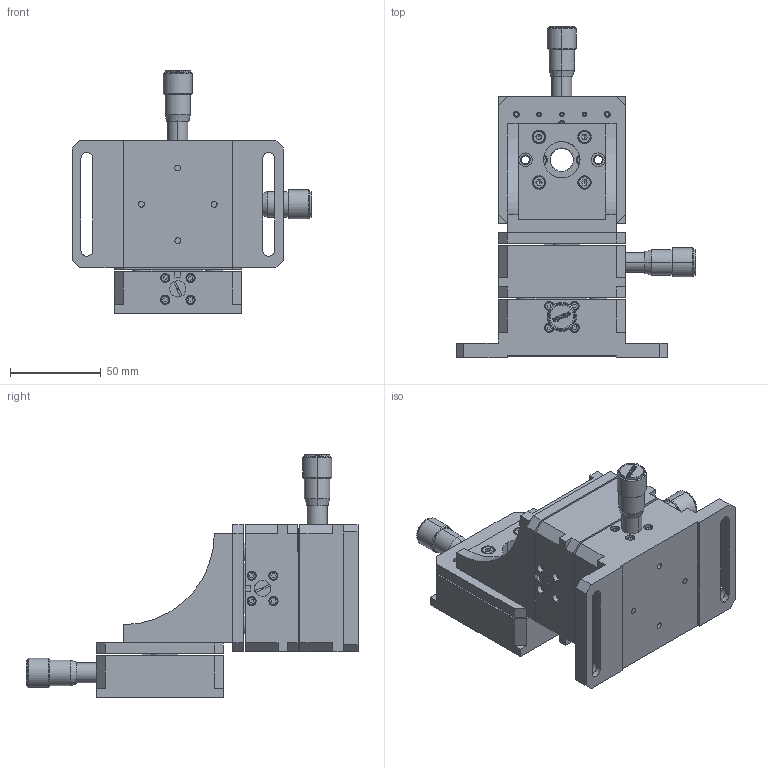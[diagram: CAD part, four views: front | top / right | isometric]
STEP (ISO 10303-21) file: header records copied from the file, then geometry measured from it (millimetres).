
FILE_DESCRIPTION (( 'STEP AP203' ), '1' );
FILE_NAME ('7TLF1-XYZ.STEP', '2008-09-25T06:30:32', ( 'Darius' ), ( '' ), 'SwSTEP 2.0', 'SolidWorks 2003240', '' );
FILE_SCHEMA (( 'CONFIG_CONTROL_DESIGN' ));
Products named in the file (1): 7TLF1-XYZ
Bounding box: 131.6 x 182.6 x 133.6 mm (x, y, z)
Volume: 522715.4 mm3; surface area: 120145.2 mm2
Topology: 1 solids, 94 shells, 2501 faces, 5906 edges, 3781 vertices
Faces by surface type: cylinder 922, plane 897, bspline 349, cone 333
Entity records: 82287 total; most frequent: CARTESIAN_POINT 25470, ORIENTED_EDGE 11668, DIRECTION 11592, EDGE_CURVE 5834, AXIS2_PLACEMENT_3D 4363, VERTEX_POINT 3781, EDGE_LOOP 2911, VECTOR 2866
